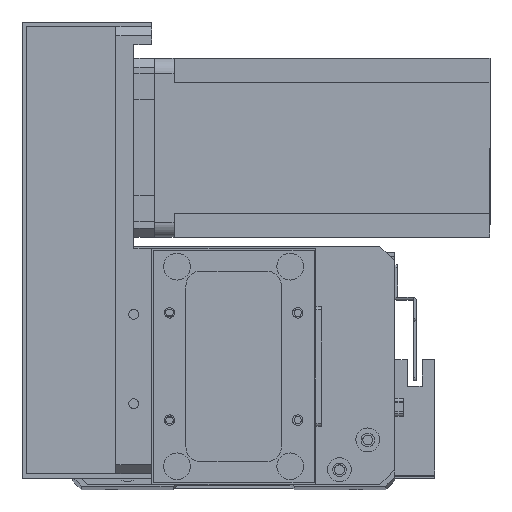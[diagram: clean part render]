
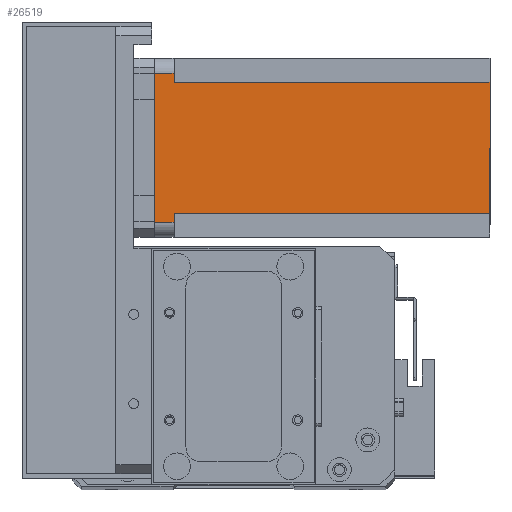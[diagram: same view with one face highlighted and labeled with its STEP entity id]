
A CAD part, top view. The second image highlights one B-rep face of the part: STEP entity #26519.
In plain terms, the highlighted planar face has unit normal (0, 0, 1) as drawn and (0, -1, 0) by its records, which use the part's own axes.
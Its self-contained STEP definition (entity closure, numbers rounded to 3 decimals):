
#585 = ORIENTED_EDGE ( 'NONE', *, *, #11912, .T. ) ;
#1419 = CARTESIAN_POINT ( 'NONE',  ( 8., 0., -6.5 ) ) ;
#1498 = VERTEX_POINT ( 'NONE', #14511 ) ;
#1647 = ORIENTED_EDGE ( 'NONE', *, *, #11097, .F. ) ;
#1962 = PLANE ( 'NONE',  #9132 ) ;
#2293 = ORIENTED_EDGE ( 'NONE', *, *, #11903, .T. ) ;
#2300 = EDGE_LOOP ( 'NONE', ( #2293, #585, #1647, #16091, #28685, #12043, #13950, #5370 ) ) ;
#3133 = VERTEX_POINT ( 'NONE', #17097 ) ;
#3831 = LINE ( 'NONE', #13315, #26418 ) ;
#4151 = DIRECTION ( 'NONE',  ( 0., 0., -1. ) ) ;
#4451 = CARTESIAN_POINT ( 'NONE',  ( 0., 0., -112.5 ) ) ;
#4601 = VECTOR ( 'NONE', #19564, 1000. ) ;
#5370 = ORIENTED_EDGE ( 'NONE', *, *, #12075, .F. ) ;
#6883 = VERTEX_POINT ( 'NONE', #6955 ) ;
#6955 = CARTESIAN_POINT ( 'NONE',  ( 8., 0., -112.5 ) ) ;
#6959 = DIRECTION ( 'NONE',  ( 0., -1., 0. ) ) ;
#7329 = VECTOR ( 'NONE', #24324, 1000. ) ;
#9132 = AXIS2_PLACEMENT_3D ( 'NONE', #4451, #6959, #22523 ) ;
#9632 = VECTOR ( 'NONE', #11118, 1000. ) ;
#10391 = LINE ( 'NONE', #15440, #9632 ) ;
#11097 = EDGE_CURVE ( 'NONE', #18147, #3133, #20383, .T. ) ;
#11118 = DIRECTION ( 'NONE',  ( 0., 0., -1. ) ) ;
#11122 = LINE ( 'NONE', #24039, #16168 ) ;
#11419 = DIRECTION ( 'NONE',  ( 1., 0., 0. ) ) ;
#11903 = EDGE_CURVE ( 'NONE', #14204, #21152, #16844, .T. ) ;
#11912 = EDGE_CURVE ( 'NONE', #21152, #3133, #11122, .T. ) ;
#11954 = EDGE_CURVE ( 'NONE', #18147, #1498, #10391, .T. ) ;
#11963 = EDGE_CURVE ( 'NONE', #24744, #1498, #3831, .T. ) ;
#12005 = EDGE_CURVE ( 'NONE', #6883, #24744, #25057, .T. ) ;
#12037 = EDGE_CURVE ( 'NONE', #6883, #24305, #29501, .T. ) ;
#12043 = ORIENTED_EDGE ( 'NONE', *, *, #12005, .F. ) ;
#12075 = EDGE_CURVE ( 'NONE', #14204, #24305, #28861, .T. ) ;
#12868 = VECTOR ( 'NONE', #11419, 1000. ) ;
#13315 = CARTESIAN_POINT ( 'NONE',  ( 8., 0., -6.5 ) ) ;
#13493 = CARTESIAN_POINT ( 'NONE',  ( 8., 0., -112.5 ) ) ;
#13714 = FACE_OUTER_BOUND ( 'NONE', #2300, .T. ) ;
#13950 = ORIENTED_EDGE ( 'NONE', *, *, #12037, .T. ) ;
#14204 = VERTEX_POINT ( 'NONE', #15037 ) ;
#14511 = CARTESIAN_POINT ( 'NONE',  ( 5., 0., -6.5 ) ) ;
#14712 = VECTOR ( 'NONE', #22902, 1000. ) ;
#15037 = CARTESIAN_POINT ( 'NONE',  ( 52., 0., -6.5 ) ) ;
#15440 = CARTESIAN_POINT ( 'NONE',  ( 5., 0., -112.5 ) ) ;
#16091 = ORIENTED_EDGE ( 'NONE', *, *, #11954, .T. ) ;
#16168 = VECTOR ( 'NONE', #26235, 1000. ) ;
#16844 = LINE ( 'NONE', #26143, #4601 ) ;
#17097 = CARTESIAN_POINT ( 'NONE',  ( 55., 0., 0. ) ) ;
#17879 = VECTOR ( 'NONE', #4151, 1000. ) ;
#18147 = VERTEX_POINT ( 'NONE', #18820 ) ;
#18554 = CARTESIAN_POINT ( 'NONE',  ( 52., 0., -112.5 ) ) ;
#18626 = CARTESIAN_POINT ( 'NONE',  ( 0., 0., 0. ) ) ;
#18820 = CARTESIAN_POINT ( 'NONE',  ( 5., 0., 0. ) ) ;
#19564 = DIRECTION ( 'NONE',  ( 1., 0., 0. ) ) ;
#20383 = LINE ( 'NONE', #18626, #14712 ) ;
#21152 = VERTEX_POINT ( 'NONE', #21304 ) ;
#21304 = CARTESIAN_POINT ( 'NONE',  ( 55., 0., -6.5 ) ) ;
#21961 = DIRECTION ( 'NONE',  ( -1., 0., 0. ) ) ;
#22523 = DIRECTION ( 'NONE',  ( 0., 0., -1. ) ) ;
#22902 = DIRECTION ( 'NONE',  ( 1., 0., 0. ) ) ;
#24039 = CARTESIAN_POINT ( 'NONE',  ( 55., 0., -112.5 ) ) ;
#24305 = VERTEX_POINT ( 'NONE', #18554 ) ;
#24324 = DIRECTION ( 'NONE',  ( 0., 0., 1. ) ) ;
#24744 = VERTEX_POINT ( 'NONE', #1419 ) ;
#25057 = LINE ( 'NONE', #13493, #7329 ) ;
#26143 = CARTESIAN_POINT ( 'NONE',  ( 52., 0., -6.5 ) ) ;
#26235 = DIRECTION ( 'NONE',  ( 0., 0., 1. ) ) ;
#26418 = VECTOR ( 'NONE', #21961, 1000. ) ;
#26519 = ADVANCED_FACE ( 'NONE', ( #13714 ), #1962, .T. ) ;
#26615 = CARTESIAN_POINT ( 'NONE',  ( 0., 0., -112.5 ) ) ;
#26711 = CARTESIAN_POINT ( 'NONE',  ( 52., 0., -112.5 ) ) ;
#28685 = ORIENTED_EDGE ( 'NONE', *, *, #11963, .F. ) ;
#28861 = LINE ( 'NONE', #26711, #17879 ) ;
#29501 = LINE ( 'NONE', #26615, #12868 ) ;
